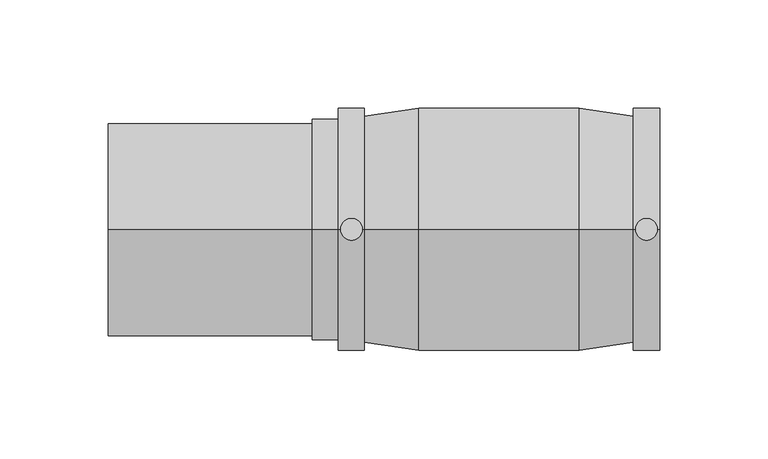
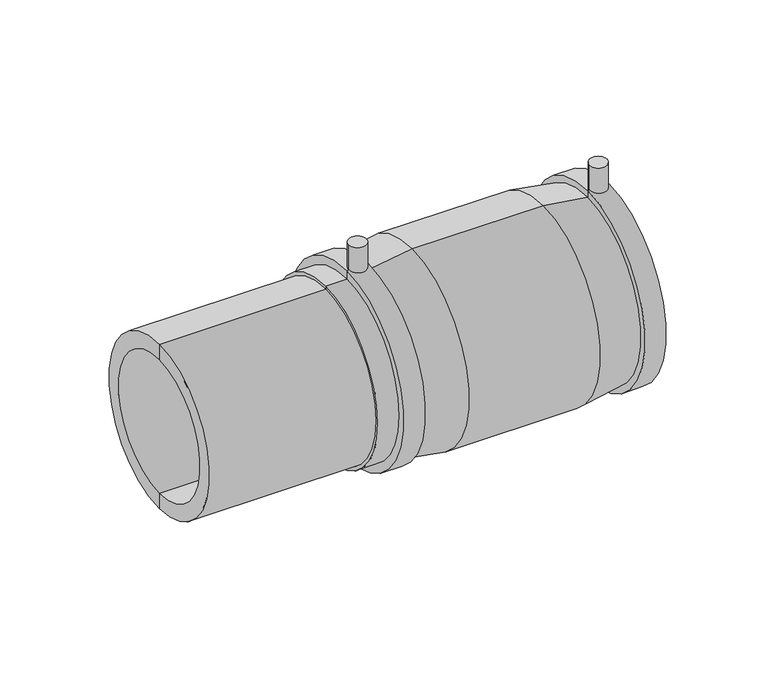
"""IFC4 building model written with IfcOpenShell, lengths in millimetres: pipe fitting geometry, Plumbing_Pipe-Fittings_Plasson_PE-Cast-Iron-Spigot-Transition-Coupler_495704 : Plumbing_Pipe-Fittings_Plasson_PE-Cast-Iron-Spigot-Transition-Coupler_495704."""

from ifc_helpers import new_model, si_unit, point, frame, frame_2d, origin, place, context, project, spatial, polyline, circle_curve, trimmed, segment, composite_curve, outline, extrude, source, transform, mapped, element, save
from ifc_brep_helpers import plane_surface, cylinder_surface, revolved_surface, advanced_brep


def pipe_fitting_be4f198a(model_context):
    return source(origin(), model_context, "Body", "SolidModel", [
        advanced_brep(
        [(-74.0, 0.0, -45.0), (-74.0, 0.0, 45.0), (-1.0, 0.0, 45.0), (-1.0, 0.0, -45.0), (-180.0, 0.0, -40.0), (-180.0, 0.0, 40.0), (-180.0, 0.0, 49.0), (-180.0, 0.0, -49.0), (-1.0, 0.0, 0.0), (-86.0, 0.0, 49.0), (-86.0, 0.0, -49.0), (-86.0, 0.0, -40.0), (-86.0, 0.0, 40.0), (-86.0, 0.0, 0.0), (-74.0, 0.0, -51.0), (-74.0, 0.0, 51.0), (-86.0, 0.0, -51.0), (-86.0, 0.0, 51.0)],
        [
            (0, 1, circle_curve(frame((-74.0, 0.0, 0.0), z_axis=(1.0, 0.0, 0.0), x_axis=(0.0, 0.0, 1.0)), 45.0)),
            (1, 2),
            (2, 3, circle_curve(frame((-1.0, 0.0, 0.0), z_axis=(-1.0, 0.0, 0.0), x_axis=(0.0, 0.0, 1.0)), 45.0)),
            (3, 0),
            (1, 0, circle_curve(frame((-74.0, 0.0, 0.0), z_axis=(1.0, 0.0, 0.0), x_axis=(0.0, 0.0, 1.0)), 45.0)),
            (3, 2, circle_curve(frame((-1.0, 0.0, 0.0), z_axis=(-1.0, 0.0, 0.0), x_axis=(0.0, 0.0, 1.0)), 45.0)),
            (4, 5, circle_curve(frame((-180.0, 0.0, 0.0), z_axis=(1.0, 0.0, 0.0), x_axis=(0.0, 0.0, 1.0)), 40.0)),
            (5, 6),
            (6, 7, circle_curve(frame((-180.0, 0.0, 0.0), z_axis=(-1.0, 0.0, 0.0), x_axis=(0.0, 0.0, 1.0)), 49.0)),
            (7, 4),
            (5, 4, circle_curve(frame((-180.0, 0.0, 0.0), z_axis=(1.0, 0.0, 0.0), x_axis=(0.0, 0.0, 1.0)), 40.0)),
            (7, 6, circle_curve(frame((-180.0, 0.0, 0.0), z_axis=(-1.0, 0.0, 0.0), x_axis=(0.0, 0.0, 1.0)), 49.0)),
            (2, 8),
            (8, 3),
            (6, 9),
            (9, 10, circle_curve(frame((-86.0, 0.0, 0.0), z_axis=(-1.0, 0.0, 0.0), x_axis=(0.0, 0.0, 1.0)), 49.0)),
            (10, 7),
            (10, 9, circle_curve(frame((-86.0, 0.0, 0.0), z_axis=(-1.0, 0.0, 0.0), x_axis=(0.0, 0.0, 1.0)), 49.0)),
            (11, 12, circle_curve(frame((-86.0, 0.0, 0.0), z_axis=(1.0, 0.0, 0.0), x_axis=(0.0, 0.0, 1.0)), 40.0)),
            (12, 5),
            (4, 11),
            (12, 11, circle_curve(frame((-86.0, 0.0, 0.0), z_axis=(1.0, 0.0, 0.0), x_axis=(0.0, 0.0, 1.0)), 40.0)),
            (13, 12),
            (11, 13),
            (14, 15, circle_curve(frame((-74.0, 0.0, 0.0), z_axis=(1.0, 0.0, 0.0), x_axis=(0.0, 0.0, 1.0)), 51.0)),
            (15, 1),
            (0, 14),
            (15, 14, circle_curve(frame((-74.0, 0.0, 0.0), z_axis=(1.0, 0.0, 0.0), x_axis=(0.0, 0.0, 1.0)), 51.0)),
            (16, 17, circle_curve(frame((-86.0, 0.0, 0.0), z_axis=(1.0, 0.0, 0.0), x_axis=(0.0, 0.0, 1.0)), 51.0)),
            (17, 15),
            (14, 16),
            (17, 16, circle_curve(frame((-86.0, 0.0, 0.0), z_axis=(1.0, 0.0, 0.0), x_axis=(0.0, 0.0, 1.0)), 51.0)),
            (9, 17),
            (16, 10),
        ],
        [
            cylinder_surface(frame((-150.0, 0.0, 0.0), z_axis=(-1.0, 0.0, 0.0), x_axis=(0.0, 0.0, 1.0)), 45.0),
            plane_surface(frame((-180.0, 0.0, 0.0), z_axis=(-1.0, 0.0, 0.0), x_axis=(0.0, 0.0, 1.0))),
            plane_surface(frame((-1.0, 0.0, 0.0), z_axis=(1.0, 0.0, 0.0), x_axis=(0.0, 0.0, 1.0))),
            cylinder_surface(frame((-150.0, 0.0, 0.0), z_axis=(-1.0, 0.0, 0.0), x_axis=(0.0, 0.0, 1.0)), 49.0),
            revolved_surface(polyline([(-180.0, 0.0, 40.0), (-86.0, 0.0, 40.0)]), (-150.0, 0.0, 0.0), (-1.0, 0.0, 0.0)),
            plane_surface(frame((-86.0, 0.0, 0.0), z_axis=(-1.0, 0.0, 0.0), x_axis=(0.0, 0.0, 1.0))),
            plane_surface(frame((-74.0, 0.0, 0.0), z_axis=(1.0, 0.0, 0.0), x_axis=(0.0, 0.0, 1.0))),
            cylinder_surface(frame((-150.0, 0.0, 0.0), z_axis=(-1.0, 0.0, 0.0), x_axis=(0.0, 0.0, 1.0)), 51.0),
        ],
        [
            (0, [[1, 2, 3, 4]]),
            (0, [[5, -4, 6, -2]]),
            (1, [[7, 8, 9, 10]]),
            (1, [[11, -10, 12, -8]]),
            (2, [[-3, 13, 14]]),
            (2, [[-6, -14, -13]]),
            (3, [[-9, 15, 16, 17]]),
            (3, [[-12, -17, 18, -15]]),
            (4, [[19, 20, -7, 21]]),
            (4, [[22, -21, -11, -20]]),
            (5, [[23, -19, 24]]),
            (5, [[-24, -22, -23]]),
            (6, [[25, 26, -1, 27]]),
            (6, [[28, -27, -5, -26]]),
            (7, [[29, 30, -25, 31]]),
            (7, [[32, -31, -28, -30]]),
            (5, [[-16, 33, -29, 34]]),
            (5, [[-18, -34, -32, -33]]),
        ],
    ),
        advanced_brep(
        [(-1.0, 0.0, -45.0), (-1.0, 0.0, 45.0), (-74.0, 0.0, 45.0), (-74.0, 0.0, -45.0), (-1.0, 0.0, -42.0), (-1.0, 0.0, 42.0), (1.0, 0.0, -42.0), (1.0, 0.0, 42.0), (1.0, 0.0, -45.0), (1.0, 0.0, 45.0), (74.0, 0.0, -45.0), (74.0, 0.0, 45.0), (74.0, 0.0, -56.0), (74.0, 0.0, 56.0), (62.0, 0.0, -56.0), (62.0, 0.0, 56.0), (62.0, 0.0, -52.3333333), (62.0, 0.0, 52.3333333), (37.0, 0.0, -56.0), (37.0, 0.0, 56.0), (-37.0, 0.0, -56.0), (-37.0, 0.0, 56.0), (-62.0, 0.0, -52.3333333), (-62.0, 0.0, 52.3333333), (-62.0, 0.0, -56.0), (-62.0, 0.0, 56.0), (-74.0, 0.0, -56.0), (-74.0, 0.0, 56.0)],
        [
            (0, 1, circle_curve(frame((-1.0, 0.0, 0.0), z_axis=(1.0, 0.0, 0.0), x_axis=(0.0, 0.0, 1.0)), 45.0)),
            (1, 2),
            (2, 3, circle_curve(frame((-74.0, 0.0, 0.0), z_axis=(-1.0, 0.0, 0.0), x_axis=(0.0, 0.0, 1.0)), 45.0)),
            (3, 0),
            (1, 0, circle_curve(frame((-1.0, 0.0, 0.0), z_axis=(1.0, 0.0, 0.0), x_axis=(0.0, 0.0, 1.0)), 45.0)),
            (3, 2, circle_curve(frame((-74.0, 0.0, 0.0), z_axis=(-1.0, 0.0, 0.0), x_axis=(0.0, 0.0, 1.0)), 45.0)),
            (4, 5, circle_curve(frame((-1.0, 0.0, 0.0), z_axis=(1.0, 0.0, 0.0), x_axis=(0.0, 0.0, 1.0)), 42.0)),
            (5, 1),
            (0, 4),
            (5, 4, circle_curve(frame((-1.0, 0.0, 0.0), z_axis=(1.0, 0.0, 0.0), x_axis=(0.0, 0.0, 1.0)), 42.0)),
            (6, 7, circle_curve(frame((1.0, 0.0, 0.0), z_axis=(1.0, 0.0, 0.0), x_axis=(0.0, 0.0, 1.0)), 42.0)),
            (7, 5),
            (4, 6),
            (7, 6, circle_curve(frame((1.0, 0.0, 0.0), z_axis=(1.0, 0.0, 0.0), x_axis=(0.0, 0.0, 1.0)), 42.0)),
            (8, 9, circle_curve(frame((1.0, 0.0, 0.0), z_axis=(1.0, 0.0, 0.0), x_axis=(0.0, 0.0, 1.0)), 45.0)),
            (9, 7),
            (6, 8),
            (9, 8, circle_curve(frame((1.0, 0.0, 0.0), z_axis=(1.0, 0.0, 0.0), x_axis=(0.0, 0.0, 1.0)), 45.0)),
            (10, 11, circle_curve(frame((74.0, 0.0, 0.0), z_axis=(1.0, 0.0, 0.0), x_axis=(0.0, 0.0, 1.0)), 45.0)),
            (11, 9),
            (8, 10),
            (11, 10, circle_curve(frame((74.0, 0.0, 0.0), z_axis=(1.0, 0.0, 0.0), x_axis=(0.0, 0.0, 1.0)), 45.0)),
            (12, 13, circle_curve(frame((74.0, 0.0, 0.0), z_axis=(1.0, 0.0, 0.0), x_axis=(0.0, 0.0, 1.0)), 56.0)),
            (13, 11),
            (10, 12),
            (13, 12, circle_curve(frame((74.0, 0.0, 0.0), z_axis=(1.0, 0.0, 0.0), x_axis=(0.0, 0.0, 1.0)), 56.0)),
            (14, 15, circle_curve(frame((62.0, 0.0, 0.0), z_axis=(1.0, 0.0, 0.0), x_axis=(0.0, 0.0, 1.0)), 56.0)),
            (15, 13),
            (12, 14),
            (15, 14, circle_curve(frame((62.0, 0.0, 0.0), z_axis=(1.0, 0.0, 0.0), x_axis=(0.0, 0.0, 1.0)), 56.0)),
            (16, 17, circle_curve(frame((62.0, 0.0, 0.0), z_axis=(1.0, 0.0, 0.0), x_axis=(0.0, 0.0, 1.0)), 52.3333333)),
            (17, 15),
            (14, 16),
            (17, 16, circle_curve(frame((62.0, 0.0, 0.0), z_axis=(1.0, 0.0, 0.0), x_axis=(0.0, 0.0, 1.0)), 52.3333333)),
            (18, 19, circle_curve(frame((37.0, 0.0, 0.0), z_axis=(1.0, 0.0, 0.0), x_axis=(0.0, 0.0, 1.0)), 56.0)),
            (19, 17),
            (16, 18),
            (19, 18, circle_curve(frame((37.0, 0.0, 0.0), z_axis=(1.0, 0.0, 0.0), x_axis=(0.0, 0.0, 1.0)), 56.0)),
            (20, 21, circle_curve(frame((-37.0, 0.0, 0.0), z_axis=(1.0, 0.0, 0.0), x_axis=(0.0, 0.0, 1.0)), 56.0)),
            (21, 19),
            (18, 20),
            (21, 20, circle_curve(frame((-37.0, 0.0, 0.0), z_axis=(1.0, 0.0, 0.0), x_axis=(0.0, 0.0, 1.0)), 56.0)),
            (22, 23, circle_curve(frame((-62.0, 0.0, 0.0), z_axis=(1.0, 0.0, 0.0), x_axis=(0.0, 0.0, 1.0)), 52.3333333)),
            (23, 21),
            (20, 22),
            (23, 22, circle_curve(frame((-62.0, 0.0, 0.0), z_axis=(1.0, 0.0, 0.0), x_axis=(0.0, 0.0, 1.0)), 52.3333333)),
            (24, 25, circle_curve(frame((-62.0, 0.0, 0.0), z_axis=(1.0, 0.0, 0.0), x_axis=(0.0, 0.0, 1.0)), 56.0)),
            (25, 23),
            (22, 24),
            (25, 24, circle_curve(frame((-62.0, 0.0, 0.0), z_axis=(1.0, 0.0, 0.0), x_axis=(0.0, 0.0, 1.0)), 56.0)),
            (26, 27, circle_curve(frame((-74.0, 0.0, 0.0), z_axis=(1.0, 0.0, 0.0), x_axis=(0.0, 0.0, 1.0)), 56.0)),
            (27, 25),
            (24, 26),
            (27, 26, circle_curve(frame((-74.0, 0.0, 0.0), z_axis=(1.0, 0.0, 0.0), x_axis=(0.0, 0.0, 1.0)), 56.0)),
            (2, 27),
            (26, 3),
        ],
        [
            revolved_surface(polyline([(-74.0, 0.0, 45.0), (-1.0, 0.0, 45.0)]), (-74.0, 0.0, 0.0), (-1.0, 0.0, 0.0)),
            plane_surface(frame((-1.0, 0.0, 0.0), z_axis=(-1.0, 0.0, 0.0), x_axis=(0.0, 0.0, 1.0))),
            revolved_surface(polyline([(-1.0, 0.0, 42.0), (1.0, 0.0, 42.0)]), (-74.0, 0.0, 0.0), (-1.0, 0.0, 0.0)),
            plane_surface(frame((1.0, 0.0, 0.0), z_axis=(1.0, 0.0, 0.0), x_axis=(0.0, 0.0, 1.0))),
            revolved_surface(polyline([(1.0, 0.0, 45.0), (74.0, 0.0, 45.0)]), (-74.0, 0.0, 0.0), (-1.0, 0.0, 0.0)),
            plane_surface(frame((74.0, 0.0, 0.0), z_axis=(1.0, 0.0, 0.0), x_axis=(0.0, 0.0, 1.0))),
            cylinder_surface(frame((-74.0, 0.0, 0.0), z_axis=(-1.0, 0.0, 0.0), x_axis=(0.0, 0.0, 1.0)), 56.0),
            plane_surface(frame((62.0, 0.0, 0.0), z_axis=(-1.0, 0.0, 0.0), x_axis=(0.0, 0.0, 1.0))),
            revolved_surface(polyline([(62.0, 0.0, 52.3333333), (37.0, 0.0, 56.0)]), (-74.0, 0.0, 0.0), (-1.0, 0.0, 0.0)),
            revolved_surface(polyline([(-37.0, 0.0, 56.0), (-62.0, 0.0, 52.3333333)]), (-74.0, 0.0, 0.0), (-1.0, 0.0, 0.0)),
            plane_surface(frame((-62.0, 0.0, 0.0), z_axis=(1.0, 0.0, 0.0), x_axis=(0.0, 0.0, 1.0))),
            plane_surface(frame((-74.0, 0.0, 0.0), z_axis=(-1.0, 0.0, 0.0), x_axis=(0.0, 0.0, 1.0))),
        ],
        [
            (0, [[1, 2, 3, 4]]),
            (0, [[5, -4, 6, -2]]),
            (1, [[7, 8, -1, 9]]),
            (1, [[10, -9, -5, -8]]),
            (2, [[11, 12, -7, 13]]),
            (2, [[14, -13, -10, -12]]),
            (3, [[15, 16, -11, 17]]),
            (3, [[18, -17, -14, -16]]),
            (4, [[19, 20, -15, 21]]),
            (4, [[22, -21, -18, -20]]),
            (5, [[23, 24, -19, 25]]),
            (5, [[26, -25, -22, -24]]),
            (6, [[27, 28, -23, 29]]),
            (6, [[30, -29, -26, -28]]),
            (7, [[31, 32, -27, 33]]),
            (7, [[34, -33, -30, -32]]),
            (8, [[35, 36, -31, 37]]),
            (8, [[38, -37, -34, -36]]),
            (6, [[39, 40, -35, 41]]),
            (6, [[42, -41, -38, -40]]),
            (9, [[43, 44, -39, 45]]),
            (9, [[46, -45, -42, -44]]),
            (10, [[47, 48, -43, 49]]),
            (10, [[50, -49, -46, -48]]),
            (6, [[51, 52, -47, 53]]),
            (6, [[54, -53, -50, -52]]),
            (11, [[-3, 55, -51, 56]]),
            (11, [[-6, -56, -54, -55]]),
        ],
    ),
        extrude(outline(composite_curve([segment(trimmed(circle_curve(frame_2d((-68.0, 0.0)), 5.0), [point((-73.0, 0.0))], [point((-63.0, 0.0))], False, "CARTESIAN"), True, "CONTINUOUS"), segment(trimmed(circle_curve(frame_2d((-68.0, 0.0)), 5.0), [point((-63.0, 0.0))], [point((-73.0, 0.0))], False, "CARTESIAN"), True, "CONTINUOUS")], self_intersect=False)), frame((0.0, 0.0, 50.5), z_axis=(0.0, 0.0, 1.0), x_axis=(1.0, 0.0, 0.0)), (0.0, 0.0, 1.0), 20.5),
        extrude(outline(composite_curve([segment(trimmed(circle_curve(frame_2d((68.0, 0.0)), 5.0), [point((63.0, 0.0))], [point((73.0, 0.0))], False, "CARTESIAN"), True, "CONTINUOUS"), segment(trimmed(circle_curve(frame_2d((68.0, 0.0)), 5.0), [point((73.0, 0.0))], [point((63.0, 0.0))], False, "CARTESIAN"), True, "CONTINUOUS")], self_intersect=False)), frame((0.0, 0.0, 50.5), z_axis=(0.0, 0.0, 1.0), x_axis=(1.0, 0.0, 0.0)), (0.0, 0.0, 1.0), 20.5),
    ])


if __name__ == "__main__":
    model = new_model("IFC4")
    model_context = context("Model", 3, world=origin())
    ifc_project = project(units=[si_unit("LENGTHUNIT", "METRE", prefix="MILLI")], contexts=[model_context])
    site = spatial("IfcSite", under=ifc_project)
    building = spatial("IfcBuilding", under=site)
    placement = place(None, origin())
    pipe_fitting_shape = pipe_fitting_be4f198a(model_context)
    element("IfcPipeFitting", 1, ObjectType="Plumbing_Pipe-Fittings_Plasson_PE-Cast-Iron-Spigot-Transition-Coupler_495704 : Plumbing_Pipe-Fittings_Plasson_PE-Cast-Iron-Spigot-Transition-Coupler_495704", at=placement, inside=building, context=model_context, shape_type="MappedRepresentation", body=[
        mapped(pipe_fitting_shape, transform((0.0, 0.0, 0.0), x_axis=(1.0, 0.0, 0.0), y_axis=(0.0, 1.0, 0.0), z_axis=(0.0, 0.0, 1.0))),
    ])
    save(model, "model.ifc")
